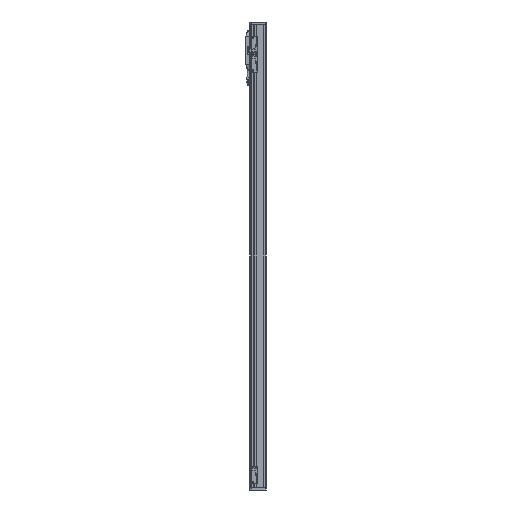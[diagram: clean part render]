
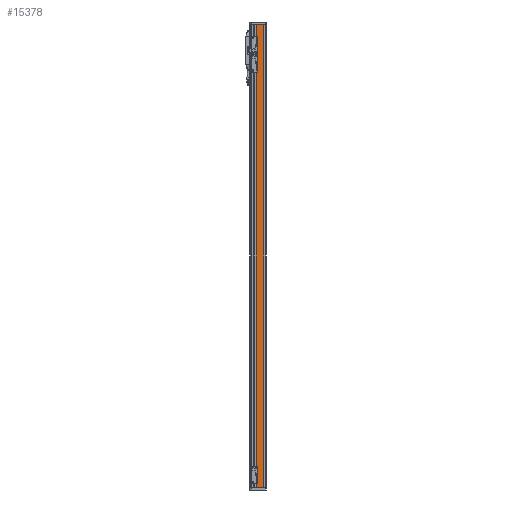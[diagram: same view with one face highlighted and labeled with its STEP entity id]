
A CAD part, left-side view. The second image highlights one B-rep face of the part: STEP entity #15378.
In plain terms, the highlighted planar face has unit normal (-1, 0, 0).
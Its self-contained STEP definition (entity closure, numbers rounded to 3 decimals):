
#152 = PLANE('',#153);
#153 = AXIS2_PLACEMENT_3D('',#154,#155,#156);
#154 = CARTESIAN_POINT('',(0.,0.,675.));
#155 = DIRECTION('',(-0.,0.,1.));
#156 = DIRECTION('',(1.,0.,0.));
#817 = PLANE('',#818);
#818 = AXIS2_PLACEMENT_3D('',#819,#820,#821);
#819 = CARTESIAN_POINT('',(0.,0.,-675.));
#820 = DIRECTION('',(-0.,0.,1.));
#821 = DIRECTION('',(1.,0.,0.));
#8393 = PLANE('',#8394);
#8394 = AXIS2_PLACEMENT_3D('',#8395,#8396,#8397);
#8395 = CARTESIAN_POINT('',(-27.5,-17.,670.));
#8396 = DIRECTION('',(-0.707,0.707,0.));
#8397 = DIRECTION('',(0.,0.,1.));
#8795 = VERTEX_POINT('',#8796);
#8796 = CARTESIAN_POINT('',(-27.1,4.6,675.));
#8810 = PLANE('',#8811);
#8811 = AXIS2_PLACEMENT_3D('',#8812,#8813,#8814);
#8812 = CARTESIAN_POINT('',(-27.1,4.6,670.));
#8813 = DIRECTION('',(-0.707,-0.707,0.));
#8814 = DIRECTION('',(0.,0.,1.));
#8822 = EDGE_CURVE('',#8795,#8823,#8825,.T.);
#8823 = VERTEX_POINT('',#8824);
#8824 = CARTESIAN_POINT('',(-27.1,-16.6,675.));
#8825 = SURFACE_CURVE('',#8826,(#8830,#8837),.PCURVE_S1.);
#8826 = LINE('',#8827,#8828);
#8827 = CARTESIAN_POINT('',(-27.1,8.,675.));
#8828 = VECTOR('',#8829,1.);
#8829 = DIRECTION('',(0.,-1.,0.));
#8830 = PCURVE('',#152,#8831);
#8831 = DEFINITIONAL_REPRESENTATION('',(#8832),#8836);
#8832 = LINE('',#8833,#8834);
#8833 = CARTESIAN_POINT('',(-27.1,8.));
#8834 = VECTOR('',#8835,1.);
#8835 = DIRECTION('',(0.,-1.));
#8836 = ( GEOMETRIC_REPRESENTATION_CONTEXT(2) 
PARAMETRIC_REPRESENTATION_CONTEXT() REPRESENTATION_CONTEXT('2D SPACE',''
  ) );
#8837 = PCURVE('',#8838,#8843);
#8838 = PLANE('',#8839);
#8839 = AXIS2_PLACEMENT_3D('',#8840,#8841,#8842);
#8840 = CARTESIAN_POINT('',(-27.1,8.,670.));
#8841 = DIRECTION('',(1.,0.,0.));
#8842 = DIRECTION('',(0.,1.,0.));
#8843 = DEFINITIONAL_REPRESENTATION('',(#8844),#8848);
#8844 = LINE('',#8845,#8846);
#8845 = CARTESIAN_POINT('',(0.,5.));
#8846 = VECTOR('',#8847,1.);
#8847 = DIRECTION('',(-1.,0.));
#8848 = ( GEOMETRIC_REPRESENTATION_CONTEXT(2) 
PARAMETRIC_REPRESENTATION_CONTEXT() REPRESENTATION_CONTEXT('2D SPACE',''
  ) );
#9862 = VERTEX_POINT('',#9863);
#9863 = CARTESIAN_POINT('',(-27.1,-16.6,-675.));
#9884 = EDGE_CURVE('',#9862,#9885,#9887,.T.);
#9885 = VERTEX_POINT('',#9886);
#9886 = CARTESIAN_POINT('',(-27.1,4.6,-675.));
#9887 = SURFACE_CURVE('',#9888,(#9892,#9899),.PCURVE_S1.);
#9888 = LINE('',#9889,#9890);
#9889 = CARTESIAN_POINT('',(-27.1,0.,-675.));
#9890 = VECTOR('',#9891,1.);
#9891 = DIRECTION('',(0.,1.,0.));
#9892 = PCURVE('',#817,#9893);
#9893 = DEFINITIONAL_REPRESENTATION('',(#9894),#9898);
#9894 = LINE('',#9895,#9896);
#9895 = CARTESIAN_POINT('',(-27.1,0.));
#9896 = VECTOR('',#9897,1.);
#9897 = DIRECTION('',(0.,1.));
#9898 = ( GEOMETRIC_REPRESENTATION_CONTEXT(2) 
PARAMETRIC_REPRESENTATION_CONTEXT() REPRESENTATION_CONTEXT('2D SPACE',''
  ) );
#9899 = PCURVE('',#8838,#9900);
#9900 = DEFINITIONAL_REPRESENTATION('',(#9901),#9905);
#9901 = LINE('',#9902,#9903);
#9902 = CARTESIAN_POINT('',(-8.,-1345.));
#9903 = VECTOR('',#9904,1.);
#9904 = DIRECTION('',(1.,0.));
#9905 = ( GEOMETRIC_REPRESENTATION_CONTEXT(2) 
PARAMETRIC_REPRESENTATION_CONTEXT() REPRESENTATION_CONTEXT('2D SPACE',''
  ) );
#15378 = ADVANCED_FACE('',(#15379),#8838,.F.);
#15379 = FACE_BOUND('',#15380,.T.);
#15380 = EDGE_LOOP('',(#15381,#15382,#15403,#15404));
#15381 = ORIENTED_EDGE('',*,*,#8822,.F.);
#15382 = ORIENTED_EDGE('',*,*,#15383,.T.);
#15383 = EDGE_CURVE('',#8795,#9885,#15384,.T.);
#15384 = SURFACE_CURVE('',#15385,(#15389,#15396),.PCURVE_S1.);
#15385 = LINE('',#15386,#15387);
#15386 = CARTESIAN_POINT('',(-27.1,4.6,-670.));
#15387 = VECTOR('',#15388,1.);
#15388 = DIRECTION('',(0.,0.,-1.));
#15389 = PCURVE('',#8838,#15390);
#15390 = DEFINITIONAL_REPRESENTATION('',(#15391),#15395);
#15391 = LINE('',#15392,#15393);
#15392 = CARTESIAN_POINT('',(-3.4,-1340.));
#15393 = VECTOR('',#15394,1.);
#15394 = DIRECTION('',(0.,-1.));
#15395 = ( GEOMETRIC_REPRESENTATION_CONTEXT(2) 
PARAMETRIC_REPRESENTATION_CONTEXT() REPRESENTATION_CONTEXT('2D SPACE',''
  ) );
#15396 = PCURVE('',#8810,#15397);
#15397 = DEFINITIONAL_REPRESENTATION('',(#15398),#15402);
#15398 = LINE('',#15399,#15400);
#15399 = CARTESIAN_POINT('',(-1340.,0.));
#15400 = VECTOR('',#15401,1.);
#15401 = DIRECTION('',(-1.,0.));
#15402 = ( GEOMETRIC_REPRESENTATION_CONTEXT(2) 
PARAMETRIC_REPRESENTATION_CONTEXT() REPRESENTATION_CONTEXT('2D SPACE',''
  ) );
#15403 = ORIENTED_EDGE('',*,*,#9884,.F.);
#15404 = ORIENTED_EDGE('',*,*,#15405,.T.);
#15405 = EDGE_CURVE('',#9862,#8823,#15406,.T.);
#15406 = SURFACE_CURVE('',#15407,(#15411,#15418),.PCURVE_S1.);
#15407 = LINE('',#15408,#15409);
#15408 = CARTESIAN_POINT('',(-27.1,-16.6,670.));
#15409 = VECTOR('',#15410,1.);
#15410 = DIRECTION('',(0.,0.,1.));
#15411 = PCURVE('',#8838,#15412);
#15412 = DEFINITIONAL_REPRESENTATION('',(#15413),#15417);
#15413 = LINE('',#15414,#15415);
#15414 = CARTESIAN_POINT('',(-24.6,0.));
#15415 = VECTOR('',#15416,1.);
#15416 = DIRECTION('',(0.,1.));
#15417 = ( GEOMETRIC_REPRESENTATION_CONTEXT(2) 
PARAMETRIC_REPRESENTATION_CONTEXT() REPRESENTATION_CONTEXT('2D SPACE',''
  ) );
#15418 = PCURVE('',#8393,#15419);
#15419 = DEFINITIONAL_REPRESENTATION('',(#15420),#15424);
#15420 = LINE('',#15421,#15422);
#15421 = CARTESIAN_POINT('',(0.,0.566));
#15422 = VECTOR('',#15423,1.);
#15423 = DIRECTION('',(1.,0.));
#15424 = ( GEOMETRIC_REPRESENTATION_CONTEXT(2) 
PARAMETRIC_REPRESENTATION_CONTEXT() REPRESENTATION_CONTEXT('2D SPACE',''
  ) );
